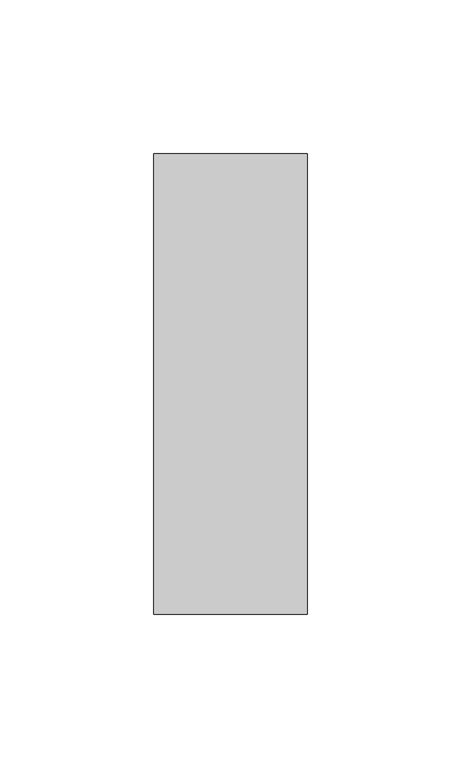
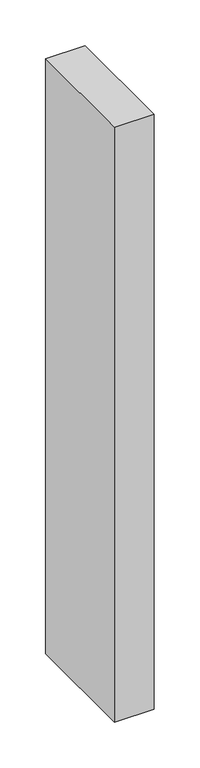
"""IFC4 building model written with IfcOpenShell, lengths in millimetres: member geometry, Прямоугольный импост : 50 x 150 мм."""

from ifc_helpers import new_model, si_unit, frame, origin, place, context, project, spatial, polyline, outline, extrude, source, transform, mapped, element, save


def member_7dd7ceb9(model_context):
    return source(origin(), model_context, "Body", "SweptSolid", [
        extrude(outline(polyline([(25.0, 75.0), (25.0, -75.0), (-25.0, -75.0), (-25.0, 75.0), (25.0, 75.0)])), frame((0.0, 0.0, -792.6770395), z_axis=(0.0, 0.0, 1.0), x_axis=(1.0, 0.0, 0.0)), (0.0, 0.0, 1.0), 792.6770395),
    ])


if __name__ == "__main__":
    model = new_model("IFC4")
    model_context = context("Model", 3, world=origin())
    ifc_project = project(units=[si_unit("LENGTHUNIT", "METRE", prefix="MILLI")], contexts=[model_context])
    site = spatial("IfcSite", under=ifc_project)
    building = spatial("IfcBuilding", under=site)
    placement = place(None, origin())
    member_shape = member_7dd7ceb9(model_context)
    element("IfcMember", 1, ObjectType="Прямоугольный импост : 50 x 150 мм", at=placement, inside=building, context=model_context, shape_type="MappedRepresentation", body=[
        mapped(member_shape, transform((0.0, 0.0, 0.0), x_axis=(1.0, 0.0, 0.0), y_axis=(0.0, 1.0, 0.0), z_axis=(0.0, 0.0, 1.0))),
    ])
    save(model, "model.ifc")
